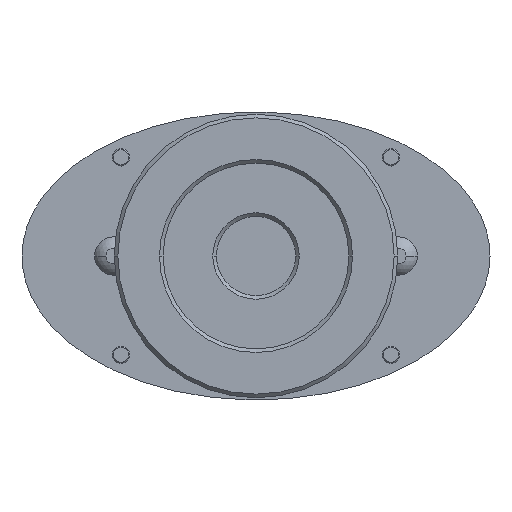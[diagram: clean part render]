
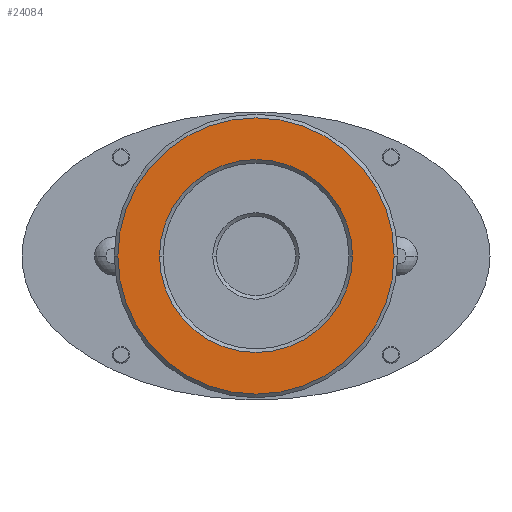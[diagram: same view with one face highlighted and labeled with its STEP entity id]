
A CAD part, front view. The second image highlights one B-rep face of the part: STEP entity #24084.
In plain terms, the highlighted planar face has unit normal (0, -1, 0).
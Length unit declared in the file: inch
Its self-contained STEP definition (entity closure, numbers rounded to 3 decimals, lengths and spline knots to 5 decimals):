
#639 = EDGE_CURVE ( 'NONE', #10609, #21794, #9961, .T. ) ;
#1616 = AXIS2_PLACEMENT_3D ( 'NONE', #10715, #3940, #18145 ) ;
#3197 = DIRECTION ( 'NONE',  ( 0., -1., 0. ) ) ;
#3940 = DIRECTION ( 'NONE',  ( 0., -1., 0. ) ) ;
#4586 = CARTESIAN_POINT ( 'NONE',  ( 0.536, -2.375, 0. ) ) ;
#5717 = PLANE ( 'NONE',  #38947 ) ;
#8122 = EDGE_CURVE ( 'NONE', #9897, #40518, #16067, .T. ) ;
#9897 = VERTEX_POINT ( 'NONE', #37149 ) ;
#9961 = CIRCLE ( 'NONE', #1616, 0.7675 ) ;
#10101 = DIRECTION ( 'NONE',  ( 0., -1., 0. ) ) ;
#10236 = CARTESIAN_POINT ( 'NONE',  ( 0., -2.375, 0. ) ) ;
#10271 = EDGE_LOOP ( 'NONE', ( #38526, #34585 ) ) ;
#10609 = VERTEX_POINT ( 'NONE', #23805 ) ;
#10715 = CARTESIAN_POINT ( 'NONE',  ( 0., -2.375, 0. ) ) ;
#14564 = DIRECTION ( 'NONE',  ( 1., 0., 0. ) ) ;
#16067 = CIRCLE ( 'NONE', #21635, 0.536 ) ;
#16128 = AXIS2_PLACEMENT_3D ( 'NONE', #19347, #3197, #29723 ) ;
#17123 = CARTESIAN_POINT ( 'NONE',  ( -0.7875, -2.375, 0. ) ) ;
#17569 = EDGE_LOOP ( 'NONE', ( #34592, #21371 ) ) ;
#17661 = DIRECTION ( 'NONE',  ( 1., 0., 0. ) ) ;
#18145 = DIRECTION ( 'NONE',  ( 1., 0., 0. ) ) ;
#19347 = CARTESIAN_POINT ( 'NONE',  ( 0., -2.375, 0. ) ) ;
#20303 = EDGE_CURVE ( 'NONE', #21794, #10609, #41924, .T. ) ;
#21371 = ORIENTED_EDGE ( 'NONE', *, *, #8122, .T. ) ;
#21635 = AXIS2_PLACEMENT_3D ( 'NONE', #10236, #26926, #17661 ) ;
#21794 = VERTEX_POINT ( 'NONE', #37202 ) ;
#23006 = FACE_OUTER_BOUND ( 'NONE', #10271, .T. ) ;
#23805 = CARTESIAN_POINT ( 'NONE',  ( 0.7675, -2.375, 0. ) ) ;
#24084 = ADVANCED_FACE ( 'Defeatured_3_52', ( #35926, #23006 ), #5717, .T. ) ;
#26926 = DIRECTION ( 'NONE',  ( 0., 1., 0. ) ) ;
#27449 = DIRECTION ( 'NONE',  ( 1., 0., 0. ) ) ;
#28418 = DIRECTION ( 'NONE',  ( 0., 1., 0. ) ) ;
#29723 = DIRECTION ( 'NONE',  ( 1., 0., 0. ) ) ;
#34585 = ORIENTED_EDGE ( 'NONE', *, *, #639, .T. ) ;
#34592 = ORIENTED_EDGE ( 'NONE', *, *, #39076, .T. ) ;
#35113 = CARTESIAN_POINT ( 'NONE',  ( 0., -2.375, 0. ) ) ;
#35926 = FACE_BOUND ( 'NONE', #17569, .T. ) ;
#37149 = CARTESIAN_POINT ( 'NONE',  ( -0.536, -2.375, 0. ) ) ;
#37202 = CARTESIAN_POINT ( 'NONE',  ( -0.7675, -2.375, 0. ) ) ;
#38526 = ORIENTED_EDGE ( 'NONE', *, *, #20303, .T. ) ;
#38947 = AXIS2_PLACEMENT_3D ( 'NONE', #17123, #10101, #27449 ) ;
#39076 = EDGE_CURVE ( 'NONE', #40518, #9897, #43249, .T. ) ;
#40518 = VERTEX_POINT ( 'NONE', #4586 ) ;
#41153 = AXIS2_PLACEMENT_3D ( 'NONE', #35113, #28418, #14564 ) ;
#41924 = CIRCLE ( 'NONE', #16128, 0.7675 ) ;
#43249 = CIRCLE ( 'NONE', #41153, 0.536 ) ;
